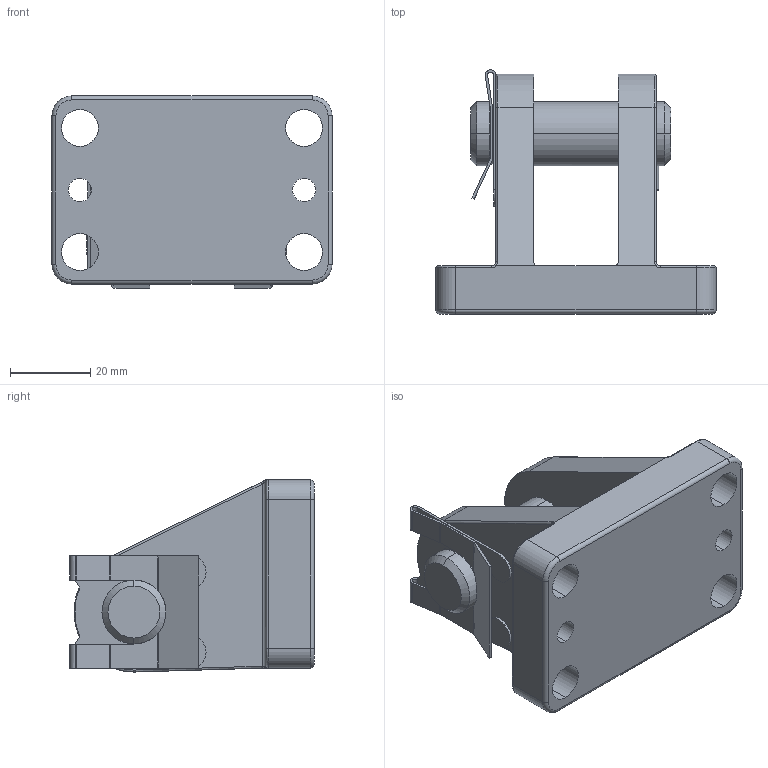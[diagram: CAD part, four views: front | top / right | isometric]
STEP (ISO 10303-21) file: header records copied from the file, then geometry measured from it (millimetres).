
FILE_DESCRIPTION (( 'STEP AP214' ), '1' );
FILE_NAME ('LBGUI-050.STEP', '2013-09-20T11:58:25', ( '' ), ( '' ), 'SwSTEP 2.0', 'SolidWorks 2009', '' );
FILE_SCHEMA (( 'AUTOMOTIVE_DESIGN' ));
Length unit declared in the file: millimetre
Products named in the file (4): LBGUI_LBGUI-050; SL-16; Bolzen_Bolzen-16-50; LBGUI-050
Assembly tree (3 placements, depth 2):
  LBGUI-050
    SL-16
    LBGUI_LBGUI-050
    Bolzen_Bolzen-16-50
Bounding box: 70 x 61 x 48 mm (x, y, z)
Volume: 73513.1 mm3; surface area: 23814 mm2
Topology: 3 solids, 3 shells, 147 faces, 382 edges, 242 vertices
Faces by surface type: cylinder 78, plane 45, torus 16, bspline 4, cone 4
Entity records: 5510 total; most frequent: CARTESIAN_POINT 1145, DIRECTION 816, ORIENTED_EDGE 764, EDGE_CURVE 382, AXIS2_PLACEMENT_3D 319, VERTEX_POINT 242, VECTOR 178, LINE 178
